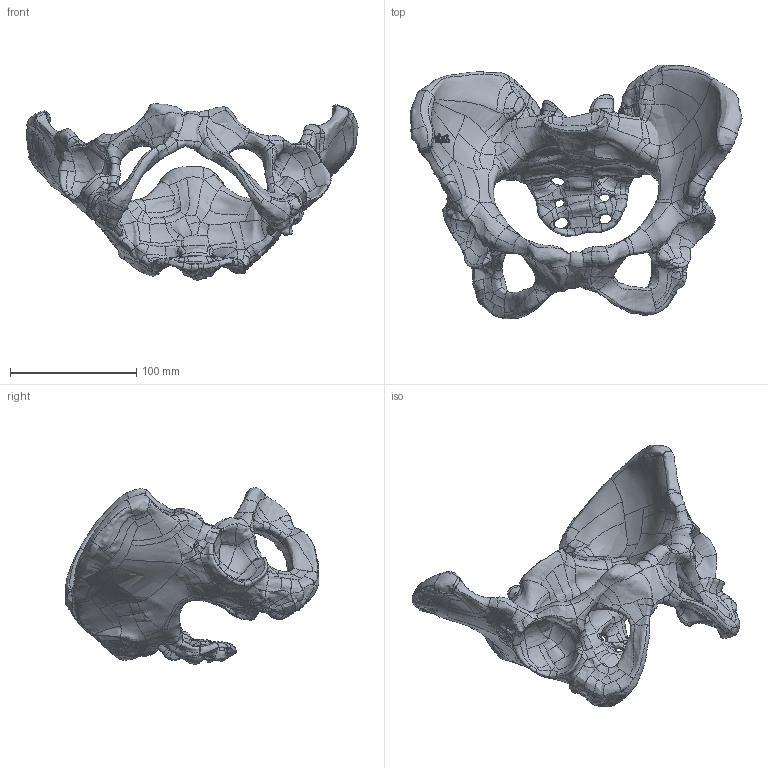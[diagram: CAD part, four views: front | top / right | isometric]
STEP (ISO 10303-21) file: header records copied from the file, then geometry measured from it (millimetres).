
FILE_DESCRIPTION (( 'STEP AP203' ), '1' );
FILE_NAME ('1302.STEP', '2025-06-24T17:39:42', ( '' ), ( '' ), 'SwSTEP 2.0', 'SolidWorks 2024', '' );
FILE_SCHEMA (( 'CONFIG_CONTROL_DESIGN' ));
Products named in the file (1): 1302
Bounding box: 263.41 x 201.46 x 139.99 mm (x, y, z)
Volume: 719078.2 mm3; surface area: 129247 mm2
Topology: 1 solids, 1 shells, 1100 faces, 2773 edges, 1670 vertices
Faces by surface type: bspline 1098, plane 2
Entity records: 373808 total; most frequent: CARTESIAN_POINT 356530, ORIENTED_EDGE 5546, EDGE_CURVE 2773, B_SPLINE_CURVE_WITH_KNOTS 2773, VERTEX_POINT 1670, EDGE_LOOP 1113, FACE_OUTER_BOUND 1100, ADVANCED_FACE 1100
